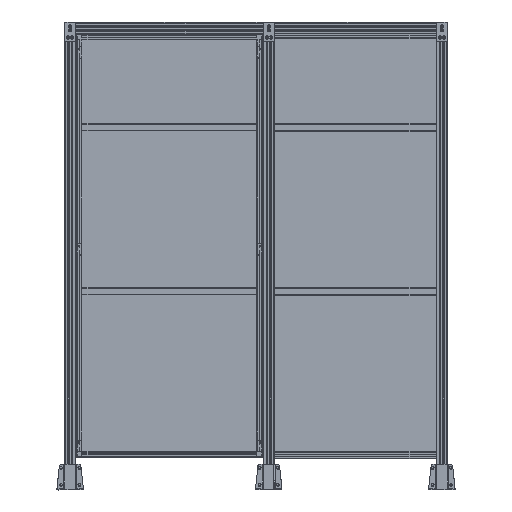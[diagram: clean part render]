
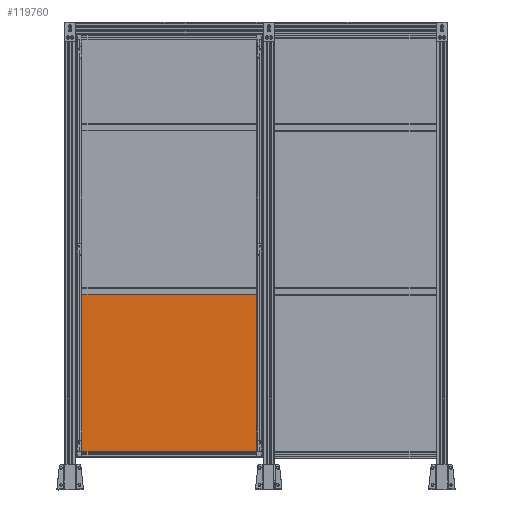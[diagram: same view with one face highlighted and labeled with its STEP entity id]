
A CAD part, top view. The second image highlights one B-rep face of the part: STEP entity #119760.
In plain terms, the highlighted planar face has unit normal (0, 0, 1).
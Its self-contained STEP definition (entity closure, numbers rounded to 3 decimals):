
#10250=FACE_OUTER_BOUND('',#17225,.T.);
#17225=EDGE_LOOP('',(#78996,#78997,#78998,#78999));
#25082=LINE('',#175629,#36968);
#25086=LINE('',#175636,#36972);
#25089=LINE('',#175642,#36975);
#25091=LINE('',#175645,#36977);
#36968=VECTOR('',#139113,10.);
#36972=VECTOR('',#139119,10.);
#36975=VECTOR('',#139124,10.);
#36977=VECTOR('',#139128,10.);
#48850=VERTEX_POINT('',#175626);
#48851=VERTEX_POINT('',#175628);
#48853=VERTEX_POINT('',#175634);
#48855=VERTEX_POINT('',#175640);
#60627=EDGE_CURVE('',#48851,#48850,#25082,.T.);
#60631=EDGE_CURVE('',#48850,#48853,#25086,.T.);
#60634=EDGE_CURVE('',#48853,#48855,#25089,.T.);
#60636=EDGE_CURVE('',#48855,#48851,#25091,.T.);
#78996=ORIENTED_EDGE('',*,*,#60636,.T.);
#78997=ORIENTED_EDGE('',*,*,#60627,.T.);
#78998=ORIENTED_EDGE('',*,*,#60631,.T.);
#78999=ORIENTED_EDGE('',*,*,#60634,.T.);
#115641=PLANE('',#126782);
#119760=ADVANCED_FACE('',(#10250),#115641,.F.);
#126782=AXIS2_PLACEMENT_3D('',#175647,#139131,#139132);
#139113=DIRECTION('',(-1.,0.,0.));
#139119=DIRECTION('',(0.,-1.,0.));
#139124=DIRECTION('',(1.,0.,0.));
#139128=DIRECTION('',(0.,1.,0.));
#139131=DIRECTION('center_axis',(0.,0.,
-1.));
#139132=DIRECTION('ref_axis',(0.,-1.,0.));
#175626=CARTESIAN_POINT('',(-1984.442,1077.5,-14.062));
#175628=CARTESIAN_POINT('',(-1009.442,1077.5,-14.062));
#175629=CARTESIAN_POINT('',(-1009.442,1077.5,-14.062));
#175634=CARTESIAN_POINT('',(-1984.442,202.5,-14.062));
#175636=CARTESIAN_POINT('',(-1984.442,1077.5,-14.062));
#175640=CARTESIAN_POINT('',(-1009.442,202.5,-14.062));
#175642=CARTESIAN_POINT('',(-1984.442,202.5,-14.062));
#175645=CARTESIAN_POINT('',(-1009.442,202.5,-14.062));
#175647=CARTESIAN_POINT('Origin',(-1496.942,640.,-14.062));
